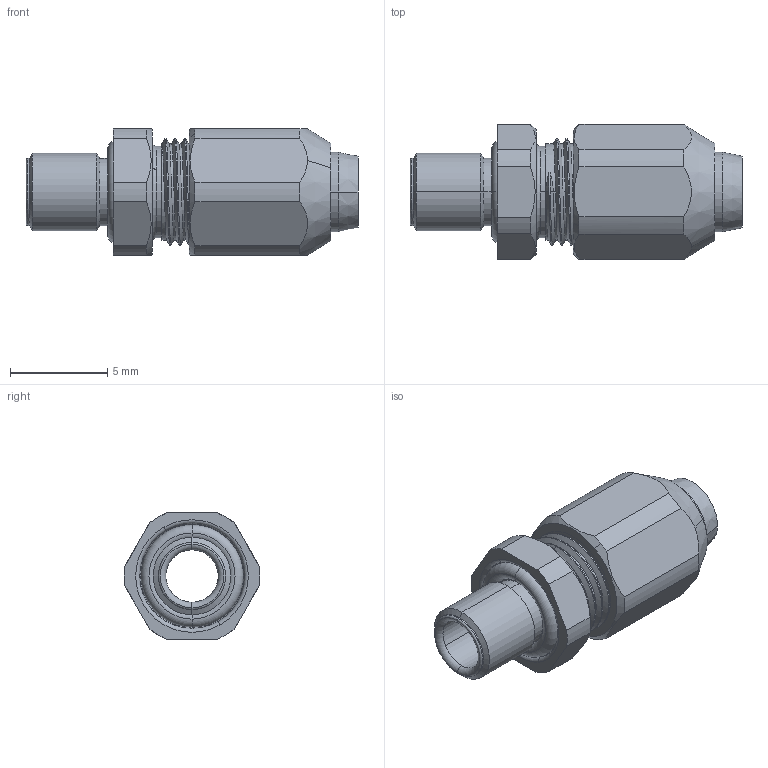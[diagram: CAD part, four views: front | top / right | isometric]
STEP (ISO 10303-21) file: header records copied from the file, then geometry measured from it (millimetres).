
FILE_DESCRIPTION(('Creo Elements/Direct Modeling STEP Export'),'2;1');
FILE_NAME('OA-WS04M-20／25.stp','2012-09-07T14:18:12',(''),(''),'Creo Elements/Direct Modeling STEP processor for AP214 (Solid Model)','Creo Elements/Direct Modeling 18.0B 02-Dec-2011 (C) Parametric Technology GmbH','');
FILE_SCHEMA(('AUTOMOTIVE_DESIGN { 1 0 10303 214 1 1 1 1 }'));
Length unit declared in the file: millimetre
Products named in the file (1): OA-WS04M-20／25
Bounding box: 17.1 x 6.99 x 6.5 mm (x, y, z)
Volume: 327.3 mm3; surface area: 615.7 mm2
Topology: 2 solids, 2 shells, 145 faces, 362 edges, 233 vertices
Faces by surface type: cylinder 61, torus 34, plane 29, cone 16, bspline 3, revolution 2
Entity records: 5880 total; most frequent: CARTESIAN_POINT 2768, ORIENTED_EDGE 732, DIRECTION 572, EDGE_CURVE 362, AXIS2_PLACEMENT_3D 242, VERTEX_POINT 233, EDGE_LOOP 161, FACE_OUTER_BOUND 145
